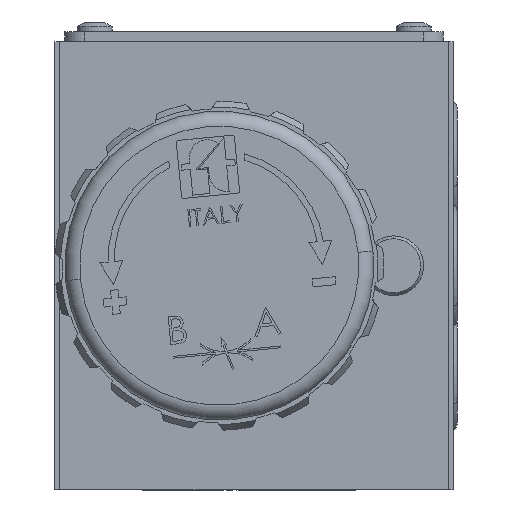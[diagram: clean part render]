
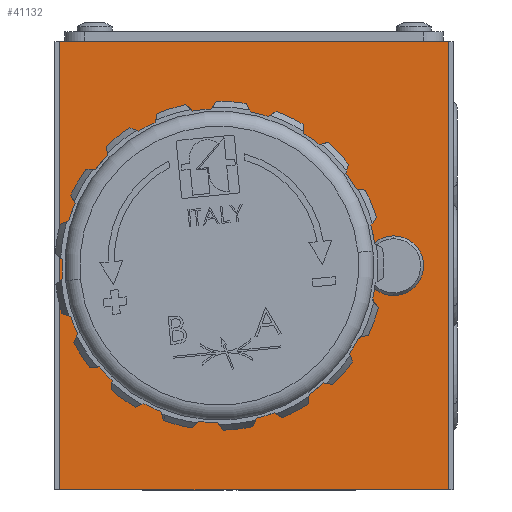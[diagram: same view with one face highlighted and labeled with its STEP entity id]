
A CAD part, left-side view. The second image highlights one B-rep face of the part: STEP entity #41132.
In plain terms, the highlighted planar face has unit normal (-1, 0, 0) as drawn and (0, 0, 1) by its records, which use the part's own axes.
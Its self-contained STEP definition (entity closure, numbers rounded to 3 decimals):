
#683 = PLANE ( 'NONE',  #38916 ) ;
#722 = EDGE_CURVE ( 'NONE', #50524, #28838, #84398, .T. ) ;
#1707 = EDGE_CURVE ( 'NONE', #50524, #55983, #104734, .T. ) ;
#1749 = CARTESIAN_POINT ( 'NONE',  ( 0., -14., 46.5 ) ) ;
#4142 = ORIENTED_EDGE ( 'NONE', *, *, #14815, .F. ) ;
#6347 = ORIENTED_EDGE ( 'NONE', *, *, #7758, .F. ) ;
#6373 = CARTESIAN_POINT ( 'NONE',  ( -22.5, 19.5, 46.5 ) ) ;
#7758 = EDGE_CURVE ( 'NONE', #25518, #89977, #92561, .T. ) ;
#10107 = DIRECTION ( 'NONE',  ( 1., 0., 0. ) ) ;
#11540 = EDGE_CURVE ( 'NONE', #89977, #25518, #88321, .T. ) ;
#11570 = ORIENTED_EDGE ( 'NONE', *, *, #51349, .F. ) ;
#14815 = EDGE_CURVE ( 'NONE', #101787, #78505, #29419, .T. ) ;
#15562 = FACE_BOUND ( 'NONE', #87803, .T. ) ;
#16976 = DIRECTION ( 'NONE',  ( 0., 0., 1. ) ) ;
#19129 = CARTESIAN_POINT ( 'NONE',  ( -22.5, -20., 46.5 ) ) ;
#19377 = CARTESIAN_POINT ( 'NONE',  ( 0., 3.5, 46.5 ) ) ;
#19482 = EDGE_CURVE ( 'NONE', #78505, #101787, #52974, .T. ) ;
#20562 = CARTESIAN_POINT ( 'NONE',  ( 3., -14., 46.5 ) ) ;
#21050 = CARTESIAN_POINT ( 'NONE',  ( -3., -14., 46.5 ) ) ;
#23103 = CARTESIAN_POINT ( 'NONE',  ( 22.5, 19.5, 46.5 ) ) ;
#25518 = VERTEX_POINT ( 'NONE', #21050 ) ;
#26020 = AXIS2_PLACEMENT_3D ( 'NONE', #40227, #97947, #48492 ) ;
#27420 = DIRECTION ( 'NONE',  ( 1., 0., 0. ) ) ;
#27662 = DIRECTION ( 'NONE',  ( 1., 0., 0. ) ) ;
#28838 = VERTEX_POINT ( 'NONE', #23103 ) ;
#29419 = CIRCLE ( 'NONE', #52283, 14. ) ;
#29540 = CARTESIAN_POINT ( 'NONE',  ( 22.5, -19.5, 46.5 ) ) ;
#32646 = CARTESIAN_POINT ( 'NONE',  ( -14., 3.5, 46.5 ) ) ;
#34593 = LINE ( 'NONE', #6373, #97824 ) ;
#38916 = AXIS2_PLACEMENT_3D ( 'NONE', #19129, #74292, #27420 ) ;
#40227 = CARTESIAN_POINT ( 'NONE',  ( 0., -14., 46.5 ) ) ;
#40256 = DIRECTION ( 'NONE',  ( 1., 0., 0. ) ) ;
#41132 = ADVANCED_FACE ( 'NONE', ( #15562, #78820, #100761 ), #683, .T. ) ;
#48492 = DIRECTION ( 'NONE',  ( 1., 0., 0. ) ) ;
#49054 = ORIENTED_EDGE ( 'NONE', *, *, #1707, .F. ) ;
#50524 = VERTEX_POINT ( 'NONE', #55279 ) ;
#50981 = ORIENTED_EDGE ( 'NONE', *, *, #722, .T. ) ;
#51091 = DIRECTION ( 'NONE',  ( 0., 1., 0. ) ) ;
#51349 = EDGE_CURVE ( 'NONE', #71573, #28838, #34593, .T. ) ;
#52283 = AXIS2_PLACEMENT_3D ( 'NONE', #66341, #16976, #74685 ) ;
#52974 = CIRCLE ( 'NONE', #75934, 14. ) ;
#55192 = CARTESIAN_POINT ( 'NONE',  ( -22.5, 20., 46.5 ) ) ;
#55279 = CARTESIAN_POINT ( 'NONE',  ( 22.5, -19.5, 46.5 ) ) ;
#55983 = VERTEX_POINT ( 'NONE', #85652 ) ;
#57670 = ORIENTED_EDGE ( 'NONE', *, *, #77882, .T. ) ;
#59504 = DIRECTION ( 'NONE',  ( 0., 0., 1. ) ) ;
#62043 = EDGE_LOOP ( 'NONE', ( #49054, #50981, #11570, #57670 ) ) ;
#63434 = DIRECTION ( 'NONE',  ( 0., -1., 0. ) ) ;
#66341 = CARTESIAN_POINT ( 'NONE',  ( 0., 3.5, 46.5 ) ) ;
#66893 = CARTESIAN_POINT ( 'NONE',  ( 22.5, 20., 46.5 ) ) ;
#71573 = VERTEX_POINT ( 'NONE', #101121 ) ;
#72531 = ORIENTED_EDGE ( 'NONE', *, *, #19482, .F. ) ;
#74292 = DIRECTION ( 'NONE',  ( 0., 0., 1. ) ) ;
#74685 = DIRECTION ( 'NONE',  ( 1., 0., 0. ) ) ;
#75934 = AXIS2_PLACEMENT_3D ( 'NONE', #19377, #77040, #27662 ) ;
#76530 = VECTOR ( 'NONE', #63434, 1000. ) ;
#77040 = DIRECTION ( 'NONE',  ( 0., 0., 1. ) ) ;
#77569 = VECTOR ( 'NONE', #103853, 1000. ) ;
#77882 = EDGE_CURVE ( 'NONE', #71573, #55983, #101101, .T. ) ;
#78505 = VERTEX_POINT ( 'NONE', #79576 ) ;
#78820 = FACE_BOUND ( 'NONE', #85495, .T. ) ;
#79576 = CARTESIAN_POINT ( 'NONE',  ( 14., 3.5, 46.5 ) ) ;
#84398 = LINE ( 'NONE', #66893, #103809 ) ;
#85495 = EDGE_LOOP ( 'NONE', ( #72531, #4142 ) ) ;
#85652 = CARTESIAN_POINT ( 'NONE',  ( -22.5, -19.5, 46.5 ) ) ;
#87803 = EDGE_LOOP ( 'NONE', ( #99370, #6347 ) ) ;
#88321 = CIRCLE ( 'NONE', #97619, 3. ) ;
#89977 = VERTEX_POINT ( 'NONE', #20562 ) ;
#92561 = CIRCLE ( 'NONE', #26020, 3. ) ;
#97619 = AXIS2_PLACEMENT_3D ( 'NONE', #1749, #59504, #10107 ) ;
#97824 = VECTOR ( 'NONE', #40256, 1000. ) ;
#97947 = DIRECTION ( 'NONE',  ( 0., 0., 1. ) ) ;
#99370 = ORIENTED_EDGE ( 'NONE', *, *, #11540, .F. ) ;
#100761 = FACE_OUTER_BOUND ( 'NONE', #62043, .T. ) ;
#101101 = LINE ( 'NONE', #55192, #76530 ) ;
#101121 = CARTESIAN_POINT ( 'NONE',  ( -22.5, 19.5, 46.5 ) ) ;
#101787 = VERTEX_POINT ( 'NONE', #32646 ) ;
#103809 = VECTOR ( 'NONE', #51091, 1000. ) ;
#103853 = DIRECTION ( 'NONE',  ( -1., 0., 0. ) ) ;
#104734 = LINE ( 'NONE', #29540, #77569 ) ;
